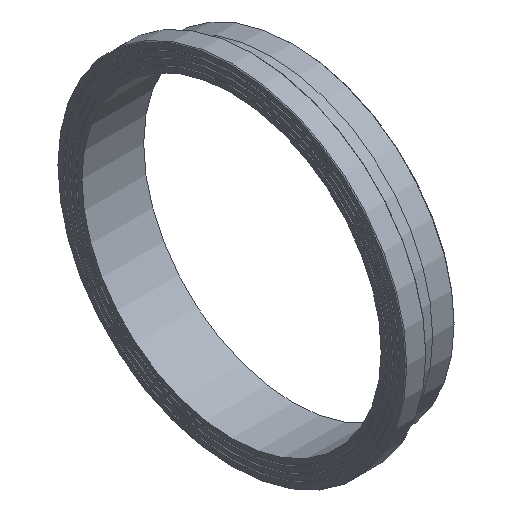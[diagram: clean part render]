
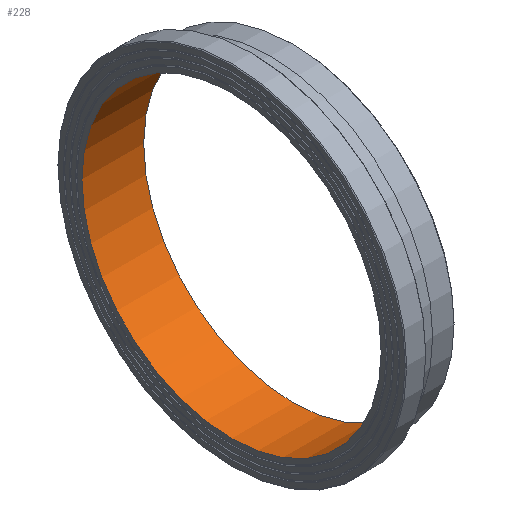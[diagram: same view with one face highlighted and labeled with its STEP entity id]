
A CAD part, isometric view. The second image highlights one B-rep face of the part: STEP entity #228.
In plain terms, the highlighted cylindrical face has radius 290.9 mm (diameter 581.8 mm), a full revolution.
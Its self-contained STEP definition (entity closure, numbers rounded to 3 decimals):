
#33=CYLINDRICAL_SURFACE('',#274,290.9);
#50=ORIENTED_EDGE('',*,*,#79,.F.);
#51=ORIENTED_EDGE('',*,*,#76,.T.);
#76=EDGE_CURVE('',#96,#96,#116,.T.);
#79=EDGE_CURVE('',#99,#99,#119,.T.);
#96=VERTEX_POINT('',#383);
#99=VERTEX_POINT('',#390);
#116=CIRCLE('',#257,290.9);
#119=CIRCLE('',#261,290.9);
#150=EDGE_LOOP('',(#50));
#151=EDGE_LOOP('',(#51));
#190=FACE_BOUND('',#150,.T.);
#191=FACE_BOUND('',#151,.T.);
#228=ADVANCED_FACE('',(#190,#191),#33,.F.);
#257=AXIS2_PLACEMENT_3D('',#382,#303,#304);
#261=AXIS2_PLACEMENT_3D('',#389,#311,#312);
#274=AXIS2_PLACEMENT_3D('',#410,#337,#338);
#303=DIRECTION('',(-1.,0.,0.));
#304=DIRECTION('',(0.,0.,1.));
#311=DIRECTION('',(-1.,0.,0.));
#312=DIRECTION('',(0.,0.,1.));
#337=DIRECTION('',(-1.,0.,0.));
#338=DIRECTION('',(0.,0.,1.));
#382=CARTESIAN_POINT('',(0.,0.,0.));
#383=CARTESIAN_POINT('',(0.,0.,290.9));
#389=CARTESIAN_POINT('',(120.,0.,0.));
#390=CARTESIAN_POINT('',(120.,0.,290.9));
#410=CARTESIAN_POINT('',(60.,0.,0.));
